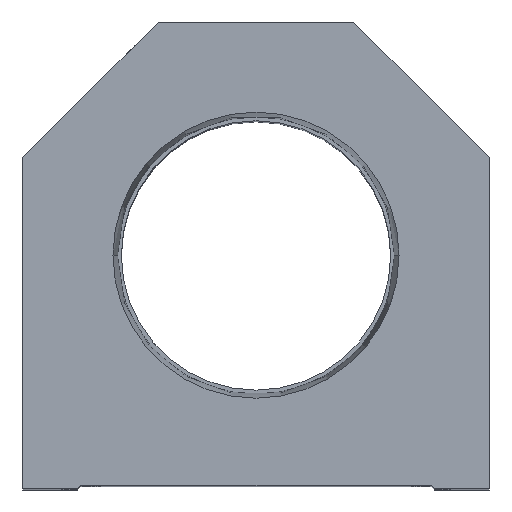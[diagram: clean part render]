
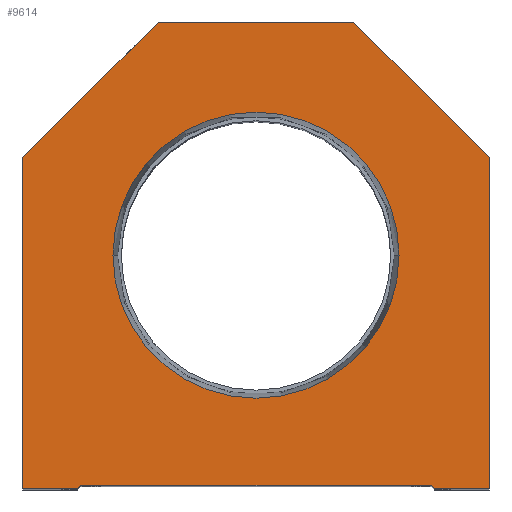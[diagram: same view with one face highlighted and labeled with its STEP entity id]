
A CAD part, top view. The second image highlights one B-rep face of the part: STEP entity #9614.
In plain terms, the highlighted planar face has unit normal (0, 0, 1).
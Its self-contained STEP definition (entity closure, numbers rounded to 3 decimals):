
#165 = ORIENTED_EDGE ( 'NONE', *, *, #3657, .T. ) ;
#278 = PLANE ( 'NONE',  #4650 ) ;
#442 = CARTESIAN_POINT ( 'NONE',  ( -28.6, 0.5, 0. ) ) ;
#446 = VERTEX_POINT ( 'NONE', #16470 ) ;
#531 = FACE_BOUND ( 'NONE', #11698, .T. ) ;
#622 = ORIENTED_EDGE ( 'NONE', *, *, #9638, .T. ) ;
#855 = ORIENTED_EDGE ( 'NONE', *, *, #10489, .T. ) ;
#874 = ORIENTED_EDGE ( 'NONE', *, *, #5047, .T. ) ;
#882 = CARTESIAN_POINT ( 'NONE',  ( -38.1, 0., 0. ) ) ;
#1091 = AXIS2_PLACEMENT_3D ( 'NONE', #9993, #3380, #13991 ) ;
#2557 = CARTESIAN_POINT ( 'NONE',  ( 16., 76.2, 0. ) ) ;
#3096 = EDGE_CURVE ( 'NONE', #15770, #8825, #15595, .T. ) ;
#3181 = DIRECTION ( 'NONE',  ( 0., 1., 0. ) ) ;
#3380 = DIRECTION ( 'NONE',  ( 0., 0., 1. ) ) ;
#3657 = EDGE_CURVE ( 'NONE', #9575, #11192, #16211, .T. ) ;
#3661 = DIRECTION ( 'NONE',  ( 0., 0., 1. ) ) ;
#4215 = VERTEX_POINT ( 'NONE', #16441 ) ;
#4442 = CARTESIAN_POINT ( 'NONE',  ( -38.1, 54.1, 0. ) ) ;
#4494 = CARTESIAN_POINT ( 'NONE',  ( -38.1, 54.1, 0. ) ) ;
#4567 = VERTEX_POINT ( 'NONE', #6062 ) ;
#4650 = AXIS2_PLACEMENT_3D ( 'NONE', #16203, #9604, #5855 ) ;
#4653 = AXIS2_PLACEMENT_3D ( 'NONE', #8639, #3661, #4808 ) ;
#4755 = CARTESIAN_POINT ( 'NONE',  ( 16., 76.2, 0. ) ) ;
#4808 = DIRECTION ( 'NONE',  ( 1., 0., 0. ) ) ;
#5047 = EDGE_CURVE ( 'NONE', #8825, #8062, #12214, .T. ) ;
#5055 = CARTESIAN_POINT ( 'NONE',  ( 28.6, 0.5, 0. ) ) ;
#5172 = VERTEX_POINT ( 'NONE', #9938 ) ;
#5844 = EDGE_CURVE ( 'NONE', #13556, #15659, #14391, .T. ) ;
#5855 = DIRECTION ( 'NONE',  ( 1., 0., 0. ) ) ;
#6062 = CARTESIAN_POINT ( 'NONE',  ( 23.374, 38.1, 0. ) ) ;
#6606 = VECTOR ( 'NONE', #6822, 1000. ) ;
#6822 = DIRECTION ( 'NONE',  ( 0., -1., 0. ) ) ;
#6974 = ORIENTED_EDGE ( 'NONE', *, *, #15411, .F. ) ;
#7021 = DIRECTION ( 'NONE',  ( -0.707, 0.707, 0. ) ) ;
#7153 = VECTOR ( 'NONE', #8150, 1000. ) ;
#7215 = VECTOR ( 'NONE', #3181, 1000. ) ;
#7676 = ORIENTED_EDGE ( 'NONE', *, *, #12680, .T. ) ;
#8062 = VERTEX_POINT ( 'NONE', #8550 ) ;
#8150 = DIRECTION ( 'NONE',  ( -1., 0., 0. ) ) ;
#8283 = DIRECTION ( 'NONE',  ( 1., 0., 0. ) ) ;
#8328 = CARTESIAN_POINT ( 'NONE',  ( 38.1, 0., 0. ) ) ;
#8550 = CARTESIAN_POINT ( 'NONE',  ( -29.1, 0., 0. ) ) ;
#8639 = CARTESIAN_POINT ( 'NONE',  ( 0., 38.1, 0. ) ) ;
#8825 = VERTEX_POINT ( 'NONE', #16178 ) ;
#8989 = DIRECTION ( 'NONE',  ( 0.707, 0.707, 0. ) ) ;
#9351 = CARTESIAN_POINT ( 'NONE',  ( 38.1, 54.1, 0. ) ) ;
#9575 = VERTEX_POINT ( 'NONE', #9351 ) ;
#9604 = DIRECTION ( 'NONE',  ( 0., 0., 1. ) ) ;
#9614 = ADVANCED_FACE ( 'NONE', ( #531, #13694 ), #278, .T. ) ;
#9638 = EDGE_CURVE ( 'NONE', #4215, #13556, #9783, .T. ) ;
#9719 = CARTESIAN_POINT ( 'NONE',  ( 38.1, 0., 0. ) ) ;
#9720 = VECTOR ( 'NONE', #8283, 1000. ) ;
#9783 = LINE ( 'NONE', #442, #16860 ) ;
#9849 = LINE ( 'NONE', #12373, #9720 ) ;
#9938 = CARTESIAN_POINT ( 'NONE',  ( -16., 76.2, 0. ) ) ;
#9993 = CARTESIAN_POINT ( 'NONE',  ( 0., 38.1, 0. ) ) ;
#10062 = LINE ( 'NONE', #9719, #7215 ) ;
#10075 = ORIENTED_EDGE ( 'NONE', *, *, #13045, .F. ) ;
#10489 = EDGE_CURVE ( 'NONE', #8062, #4215, #12894, .T. ) ;
#10504 = VECTOR ( 'NONE', #8989, 1000. ) ;
#10791 = ORIENTED_EDGE ( 'NONE', *, *, #3096, .T. ) ;
#10942 = LINE ( 'NONE', #2557, #7153 ) ;
#11192 = VERTEX_POINT ( 'NONE', #4755 ) ;
#11216 = EDGE_CURVE ( 'NONE', #14125, #9575, #10062, .T. ) ;
#11690 = EDGE_LOOP ( 'NONE', ( #874, #855, #622, #16213, #13423, #16657, #165, #13980, #7676, #10791 ) ) ;
#11691 = CARTESIAN_POINT ( 'NONE',  ( -14.55, 14.55, 0. ) ) ;
#11698 = EDGE_LOOP ( 'NONE', ( #6974, #10075 ) ) ;
#12040 = CARTESIAN_POINT ( 'NONE',  ( -28.6, 0., 0. ) ) ;
#12214 = LINE ( 'NONE', #12040, #13254 ) ;
#12224 = CIRCLE ( 'NONE', #1091, 23.374 ) ;
#12268 = DIRECTION ( 'NONE',  ( -0.707, -0.707, 0. ) ) ;
#12301 = DIRECTION ( 'NONE',  ( 1., 0., 0. ) ) ;
#12343 = EDGE_CURVE ( 'NONE', #15659, #14125, #9849, .T. ) ;
#12373 = CARTESIAN_POINT ( 'NONE',  ( 28.6, 0., 0. ) ) ;
#12680 = EDGE_CURVE ( 'NONE', #5172, #15770, #14862, .T. ) ;
#12696 = CIRCLE ( 'NONE', #4653, 23.374 ) ;
#12894 = LINE ( 'NONE', #11691, #10504 ) ;
#12993 = CARTESIAN_POINT ( 'NONE',  ( 14.55, 14.55, 0. ) ) ;
#13033 = VECTOR ( 'NONE', #12268, 1000. ) ;
#13045 = EDGE_CURVE ( 'NONE', #446, #4567, #12224, .T. ) ;
#13056 = VECTOR ( 'NONE', #13255, 1000. ) ;
#13184 = CARTESIAN_POINT ( 'NONE',  ( 29.1, 0., 0. ) ) ;
#13254 = VECTOR ( 'NONE', #12301, 1000. ) ;
#13255 = DIRECTION ( 'NONE',  ( 0.707, -0.707, 0. ) ) ;
#13423 = ORIENTED_EDGE ( 'NONE', *, *, #12343, .T. ) ;
#13556 = VERTEX_POINT ( 'NONE', #5055 ) ;
#13587 = VECTOR ( 'NONE', #7021, 1000. ) ;
#13694 = FACE_OUTER_BOUND ( 'NONE', #11690, .T. ) ;
#13980 = ORIENTED_EDGE ( 'NONE', *, *, #15639, .T. ) ;
#13991 = DIRECTION ( 'NONE',  ( 1., 0., 0. ) ) ;
#14125 = VERTEX_POINT ( 'NONE', #8328 ) ;
#14391 = LINE ( 'NONE', #12993, #13056 ) ;
#14862 = LINE ( 'NONE', #4442, #13033 ) ;
#15411 = EDGE_CURVE ( 'NONE', #4567, #446, #12696, .T. ) ;
#15595 = LINE ( 'NONE', #882, #6606 ) ;
#15639 = EDGE_CURVE ( 'NONE', #11192, #5172, #10942, .T. ) ;
#15659 = VERTEX_POINT ( 'NONE', #13184 ) ;
#15770 = VERTEX_POINT ( 'NONE', #4494 ) ;
#15953 = CARTESIAN_POINT ( 'NONE',  ( 38.1, 54.1, 0. ) ) ;
#16178 = CARTESIAN_POINT ( 'NONE',  ( -38.1, 0., 0. ) ) ;
#16203 = CARTESIAN_POINT ( 'NONE',  ( 0., 0., 0. ) ) ;
#16211 = LINE ( 'NONE', #15953, #13587 ) ;
#16213 = ORIENTED_EDGE ( 'NONE', *, *, #5844, .T. ) ;
#16377 = DIRECTION ( 'NONE',  ( 1., 0., 0. ) ) ;
#16441 = CARTESIAN_POINT ( 'NONE',  ( -28.6, 0.5, 0. ) ) ;
#16470 = CARTESIAN_POINT ( 'NONE',  ( -23.374, 38.1, 0. ) ) ;
#16657 = ORIENTED_EDGE ( 'NONE', *, *, #11216, .T. ) ;
#16860 = VECTOR ( 'NONE', #16377, 1000. ) ;
